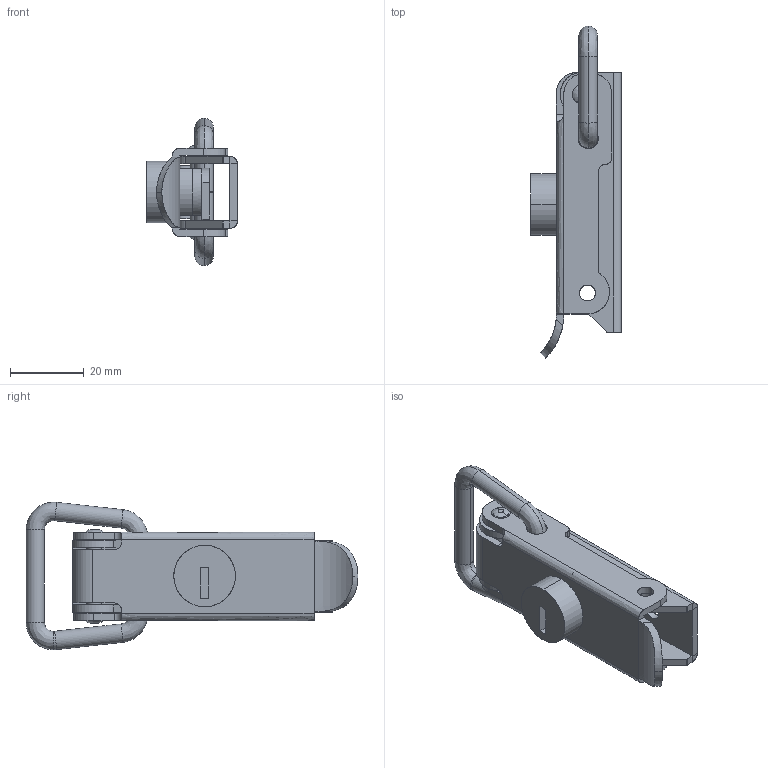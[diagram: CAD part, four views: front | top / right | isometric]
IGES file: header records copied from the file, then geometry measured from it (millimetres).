
Start section: SolidWorks IGES file using analytic representation for surfaces
Global section: file name: C:\Users\cbrechard\Desktop\GO 1032.IGS; native system: SolidWorks 2017; preprocessor: SolidWorks 2017; author: cbrechard; date: 190909.140754; units: millimetre
Bounding box: 24.6 x 90.01 x 40.02 mm (x, y, z)
Surface area: 16400.9 mm2 (no closed solid volume)
Topology: 0 solids, 0 shells, 200 faces, 2762 edges, 2732 vertices
Faces by surface type: revolution 114, bspline 86
